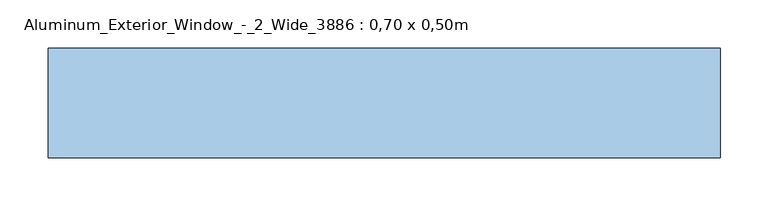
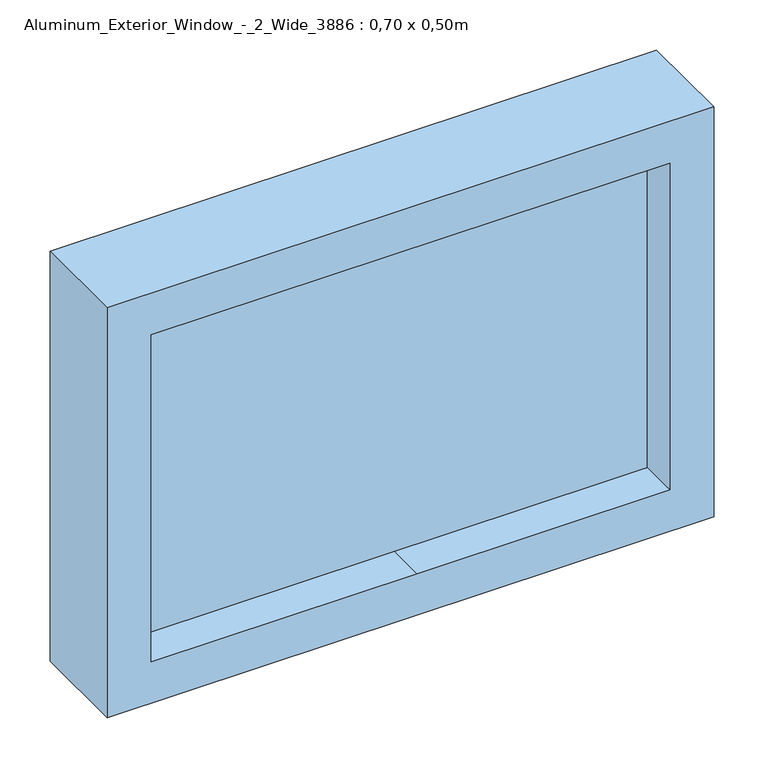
"""IFC4 building model written with IfcOpenShell, lengths in millimetres: window geometry, Aluminum_Exterior_Window_-_2_Wide_3886 : 0,70 x 0,50m."""

from ifc_helpers import new_model, si_unit, frame, origin, place, context, project, spatial, polyline, outline, extrude, source, transform, mapped, element, save


def aluminum_exterior_window_2_wide_3886_0_70_x_0_50m_620618a0(model_context):
    return source(origin(), model_context, "Body", "SweptSolid", [
        extrude(outline(polyline([(1560.0, -1371.6), (1060.0, -1371.6), (1060.0, -671.6), (1560.0, -671.6), (1560.0, -1371.6)]), holes=[polyline([(1509.2, -1047.0), (1509.2, -722.4), (1110.8, -722.4), (1110.8, -1013.8808837), (1110.8, -1320.8), (1509.2, -1320.8), (1509.2, -1047.0)])]), frame((0.0, -38.1424754, 0.0), z_axis=(0.0, 1.0, 0.0), x_axis=(0.0, 0.0, 1.0)), (0.0, 0.0, 1.0), 114.3),
        extrude(outline(polyline([(1509.2, -1047.0), (1509.2, -1320.8), (1110.8, -1320.8), (1110.8, -1020.891469), (1110.8, -722.4), (1509.2, -722.4), (1509.2, -1047.0)])), frame((0.0, 6.3075246, 0.0), z_axis=(0.0, 1.0, 0.0), x_axis=(0.0, 0.0, 1.0)), (0.0, 0.0, 1.0), 25.4),
    ])


if __name__ == "__main__":
    model = new_model("IFC4")
    model_context = context("Model", 3, world=origin())
    ifc_project = project(units=[si_unit("LENGTHUNIT", "METRE", prefix="MILLI")], contexts=[model_context])
    site = spatial("IfcSite", under=ifc_project)
    building = spatial("IfcBuilding", under=site)
    placement = place(None, origin())
    aluminum_exterior_window_2_wide_3886_0_70_x_0_50m_shape = aluminum_exterior_window_2_wide_3886_0_70_x_0_50m_620618a0(model_context)
    element("IfcWindow", 1, ObjectType="Aluminum_Exterior_Window_-_2_Wide_3886 : 0,70 x 0,50m", at=placement, inside=building, context=model_context, shape_type="MappedRepresentation", body=[
        mapped(aluminum_exterior_window_2_wide_3886_0_70_x_0_50m_shape, transform((0.0, 0.0, 0.0), x_axis=(1.0, 0.0, 0.0), y_axis=(0.0, 1.0, 0.0), z_axis=(0.0, 0.0, 1.0))),
    ])
    save(model, "model.ifc")
